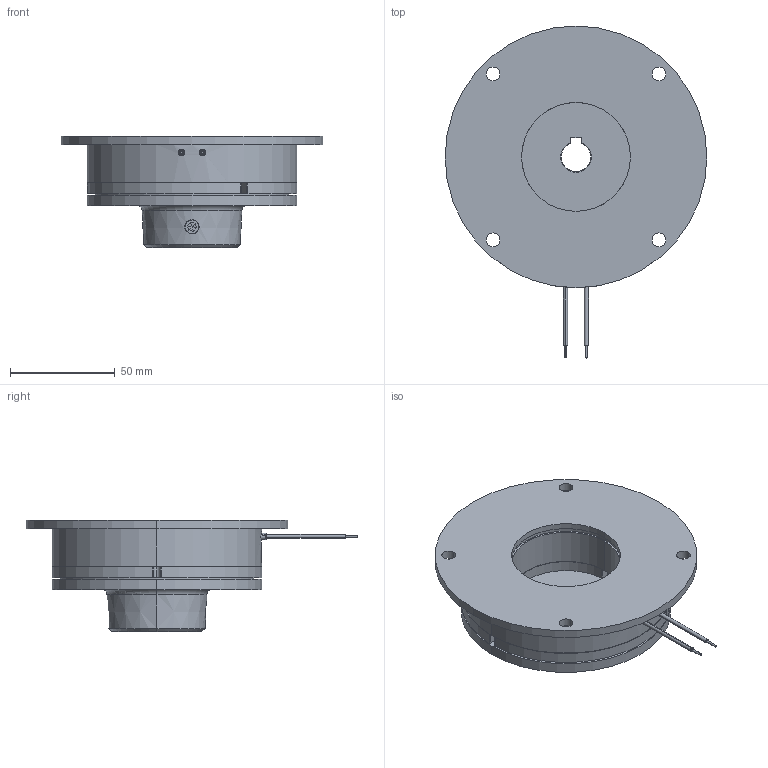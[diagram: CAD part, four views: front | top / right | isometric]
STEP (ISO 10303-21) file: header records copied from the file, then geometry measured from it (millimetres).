
FILE_DESCRIPTION (( 'STEP AP214' ), '1' );
FILE_NAME ('dr_bk_0802-130_mu.STEP', '2021-11-10T10:14:34', ( '' ), ( '' ), 'SwSTEP 2.0', 'SolidWorks 2019', '' );
FILE_SCHEMA (( 'AUTOMOTIVE_DESIGN' ));
Length unit declared in the file: millimetre
Products named in the file (10): 10068821_000; 10068825_000; 10068817_000; 10068816_000; 10068824_000; 10068819_000_Einbaul„nge 3,85; dr_bk_0802-130_mu; 10068820_000; 10068697_000; 10068826_000_M 8 x 10
Assembly tree (19 placements, depth 4):
  dr_bk_0802-130_mu
    10068697_000
    10068824_000
      10068825_000
      10068817_000
        10068816_000
        10068821_000
        10068820_000  x3
        10068819_000_Einbaul„nge 3,85  x3
      10068820_000  x3
      10068819_000_Einbaul„nge 3,85  x3
      10068826_000_M 8 x 10
Bounding box: 125 x 158.5 x 53.2 mm (x, y, z)
Volume: 240483.9 mm3; surface area: 78585.2 mm2
Topology: 19 solids, 19 shells, 629 faces, 1595 edges, 1019 vertices
Faces by surface type: cylinder 183, plane 172, bspline 135, cone 82, torus 45, sphere 12
Entity records: 24798 total; most frequent: CARTESIAN_POINT 11808, ORIENTED_EDGE 2666, DIRECTION 2073, EDGE_CURVE 1333, VERTEX_POINT 869, AXIS2_PLACEMENT_3D 775, EDGE_LOOP 586, LINE 523
